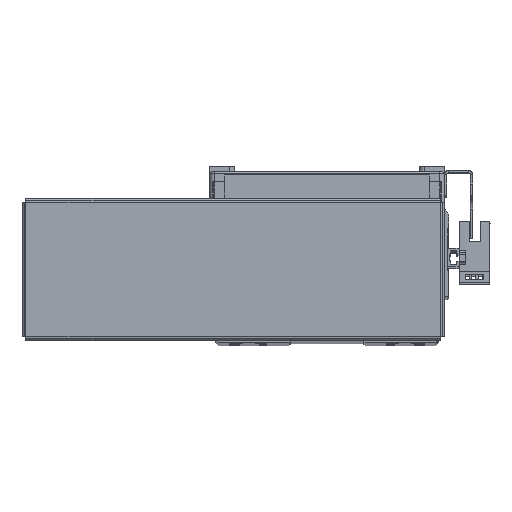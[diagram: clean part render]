
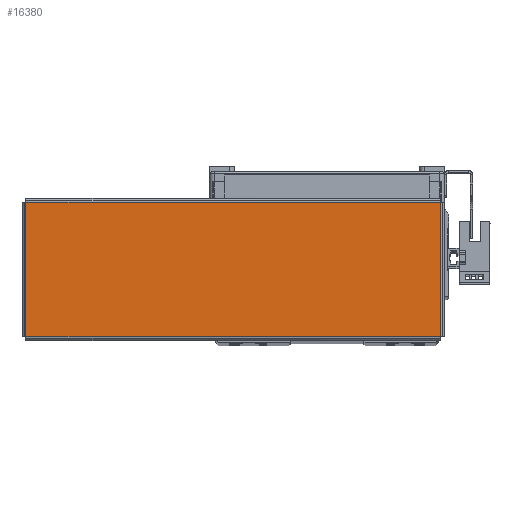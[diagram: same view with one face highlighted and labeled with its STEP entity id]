
A CAD part, top view. The second image highlights one B-rep face of the part: STEP entity #16380.
In plain terms, the highlighted planar face has unit normal (0, 0, 1) as drawn and (0, -1, 0) by its records, which use the part's own axes.
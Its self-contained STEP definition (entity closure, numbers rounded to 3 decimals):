
#1850 = VECTOR ( 'NONE', #28698, 1000. ) ;
#1859 = LINE ( 'NONE', #28699, #1850 ) ;
#1876 = LINE ( 'NONE', #28811, #1913 ) ;
#1887 = VECTOR ( 'NONE', #28807, 1000. ) ;
#1893 = LINE ( 'NONE', #28806, #1887 ) ;
#1913 = VECTOR ( 'NONE', #28800, 1000. ) ;
#1916 = LINE ( 'NONE', #28861, #1925 ) ;
#1925 = VECTOR ( 'NONE', #28839, 1000. ) ;
#4228 = EDGE_CURVE ( 'NONE', #33906, #34006, #1859, .T. ) ;
#4277 = EDGE_CURVE ( 'NONE', #52162, #33906, #1876, .T. ) ;
#4280 = EDGE_CURVE ( 'NONE', #34006, #34045, #1893, .T. ) ;
#4284 = EDGE_CURVE ( 'NONE', #34045, #52162, #1916, .T. ) ;
#6221 = CARTESIAN_POINT ( 'NONE',  ( -91.863, -1., -29.763 ) ) ;
#16380 = ADVANCED_FACE ( 'NONE', ( #51513 ), #23961, .F. ) ;
#23961 = PLANE ( 'NONE',  #38951 ) ;
#23995 = DIRECTION ( 'NONE',  ( 0., 1., 0. ) ) ;
#24005 = CARTESIAN_POINT ( 'NONE',  ( 0., -1., 0. ) ) ;
#24006 = DIRECTION ( 'NONE',  ( 0., 0., 1. ) ) ;
#25899 = ORIENTED_EDGE ( 'NONE', *, *, #4228, .T. ) ;
#27410 = CARTESIAN_POINT ( 'NONE',  ( 91.863, -1., -29.763 ) ) ;
#27555 = CARTESIAN_POINT ( 'NONE',  ( 91.863, -1., 29.763 ) ) ;
#27620 = CARTESIAN_POINT ( 'NONE',  ( -91.863, -1., 29.763 ) ) ;
#28698 = DIRECTION ( 'NONE',  ( 0., 0., 1. ) ) ;
#28699 = CARTESIAN_POINT ( 'NONE',  ( 91.863, -1., -29.793 ) ) ;
#28800 = DIRECTION ( 'NONE',  ( 1., 0., 0. ) ) ;
#28806 = CARTESIAN_POINT ( 'NONE',  ( 91.893, -1., 29.763 ) ) ;
#28807 = DIRECTION ( 'NONE',  ( -1., 0., 0. ) ) ;
#28811 = CARTESIAN_POINT ( 'NONE',  ( -91.893, -1., -29.763 ) ) ;
#28839 = DIRECTION ( 'NONE',  ( 0., 0., -1. ) ) ;
#28861 = CARTESIAN_POINT ( 'NONE',  ( -91.863, -1., 29.793 ) ) ;
#29749 = EDGE_LOOP ( 'NONE', ( #54704, #25899, #54705, #54662 ) ) ;
#33906 = VERTEX_POINT ( 'NONE', #27410 ) ;
#34006 = VERTEX_POINT ( 'NONE', #27555 ) ;
#34045 = VERTEX_POINT ( 'NONE', #27620 ) ;
#38951 = AXIS2_PLACEMENT_3D ( 'NONE', #24005, #23995, #24006 ) ;
#51513 = FACE_OUTER_BOUND ( 'NONE', #29749, .T. ) ;
#52162 = VERTEX_POINT ( 'NONE', #6221 ) ;
#54662 = ORIENTED_EDGE ( 'NONE', *, *, #4284, .T. ) ;
#54704 = ORIENTED_EDGE ( 'NONE', *, *, #4277, .T. ) ;
#54705 = ORIENTED_EDGE ( 'NONE', *, *, #4280, .T. ) ;
